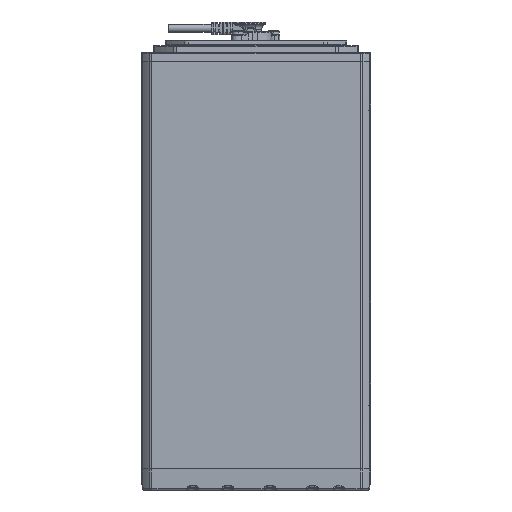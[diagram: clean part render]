
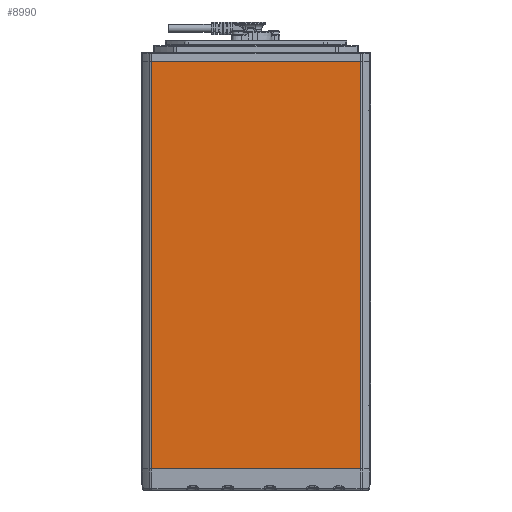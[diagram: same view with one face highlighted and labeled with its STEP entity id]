
A CAD part, left-side view. The second image highlights one B-rep face of the part: STEP entity #8990.
In plain terms, the highlighted planar face has unit normal (-1, 0, 0).
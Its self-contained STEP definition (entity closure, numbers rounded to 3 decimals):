
#6923=DIRECTION('',(0.,0.,1.));
#6924=VECTOR('',#6923,148.207);
#6925=CARTESIAN_POINT('',(-81.5,19.,-74.104));
#6926=LINE('',#6925,#6924);
#7036=DIRECTION('',(0.,0.,1.));
#7037=VECTOR('',#7036,148.207);
#7038=CARTESIAN_POINT('',(-81.5,309.,-74.104));
#7039=LINE('',#7038,#7037);
#7707=DIRECTION('',(0.,1.,0.));
#7708=VECTOR('',#7707,290.);
#7709=CARTESIAN_POINT('',(-81.5,19.,-74.104));
#7710=LINE('',#7709,#7708);
#7711=DIRECTION('',(0.,1.,0.));
#7712=VECTOR('',#7711,290.);
#7713=CARTESIAN_POINT('',(-81.5,19.,74.104));
#7714=LINE('',#7713,#7712);
#8126=CARTESIAN_POINT('',(-81.5,19.,-74.104));
#8127=VERTEX_POINT('',#8126);
#8128=CARTESIAN_POINT('',(-81.5,19.,74.104));
#8129=VERTEX_POINT('',#8128);
#8206=CARTESIAN_POINT('',(-81.5,309.,74.104));
#8207=VERTEX_POINT('',#8206);
#8208=CARTESIAN_POINT('',(-81.5,309.,-74.104));
#8209=VERTEX_POINT('',#8208);
#8978=CARTESIAN_POINT('',(-81.5,19.,-74.104));
#8979=DIRECTION('',(-1.,0.,0.));
#8980=DIRECTION('',(0.,0.,1.));
#8981=AXIS2_PLACEMENT_3D('',#8978,#8979,#8980);
#8982=PLANE('',#8981);
#8983=ORIENTED_EDGE('',*,*,#8385,.F.);
#8984=ORIENTED_EDGE('',*,*,#8973,.T.);
#8985=ORIENTED_EDGE('',*,*,#8489,.T.);
#8987=ORIENTED_EDGE('',*,*,#8986,.F.);
#8988=EDGE_LOOP('',(#8983,#8984,#8985,#8987));
#8989=FACE_OUTER_BOUND('',#8988,.F.);
#8385=EDGE_CURVE('',#8127,#8129,#6926,.T.);
#8489=EDGE_CURVE('',#8209,#8207,#7039,.T.);
#8973=EDGE_CURVE('',#8127,#8209,#7710,.T.);
#8986=EDGE_CURVE('',#8129,#8207,#7714,.T.);
#8990=ADVANCED_FACE('',(#8989),#8982,.T.);
